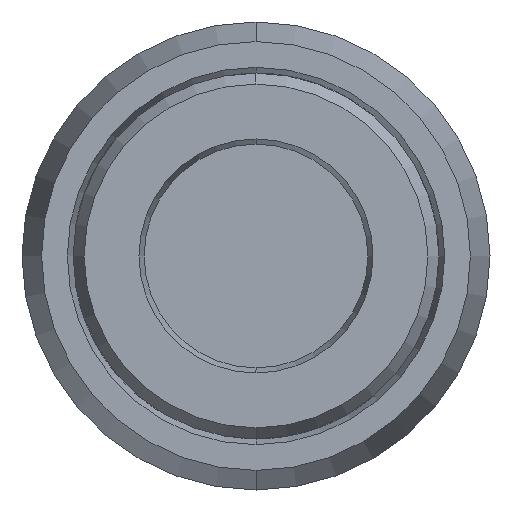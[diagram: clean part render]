
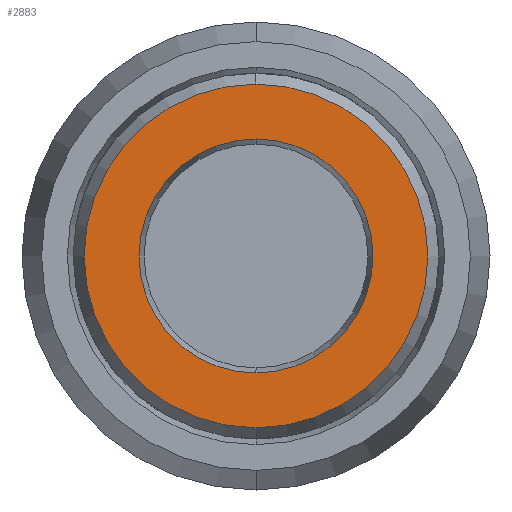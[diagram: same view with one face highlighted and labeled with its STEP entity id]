
A CAD part, front view. The second image highlights one B-rep face of the part: STEP entity #2883.
In plain terms, the highlighted planar face has unit normal (0, -1, 0).
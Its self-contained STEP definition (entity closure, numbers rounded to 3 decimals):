
#190 = AXIS2_PLACEMENT_3D ( 'NONE', #2475, #549, #2809 ) ;
#317 = DIRECTION ( 'NONE',  ( 0., 0., -1. ) ) ;
#402 = CARTESIAN_POINT ( 'NONE',  ( 0., -55.9, 8. ) ) ;
#440 = VERTEX_POINT ( 'NONE', #402 ) ;
#493 = FACE_OUTER_BOUND ( 'NONE', #1086, .T. ) ;
#549 = DIRECTION ( 'NONE',  ( 0., 1., 0. ) ) ;
#559 = CARTESIAN_POINT ( 'NONE',  ( 0., -55.9, -8. ) ) ;
#596 = VERTEX_POINT ( 'NONE', #1700 ) ;
#639 = EDGE_CURVE ( 'NONE', #945, #440, #1295, .T. ) ;
#764 = CARTESIAN_POINT ( 'NONE',  ( 0., -55.9, 0. ) ) ;
#885 = ORIENTED_EDGE ( 'NONE', *, *, #2697, .F. ) ;
#945 = VERTEX_POINT ( 'NONE', #559 ) ;
#1008 = DIRECTION ( 'NONE',  ( 0., 0., -1. ) ) ;
#1086 = EDGE_LOOP ( 'NONE', ( #885, #2344 ) ) ;
#1125 = EDGE_CURVE ( 'NONE', #440, #945, #1240, .T. ) ;
#1212 = DIRECTION ( 'NONE',  ( 0., 1., 0. ) ) ;
#1240 = CIRCLE ( 'NONE', #2851, 8. ) ;
#1290 = EDGE_LOOP ( 'NONE', ( #4136, #1294 ) ) ;
#1294 = ORIENTED_EDGE ( 'NONE', *, *, #639, .T. ) ;
#1295 = CIRCLE ( 'NONE', #3579, 8. ) ;
#1372 = DIRECTION ( 'NONE',  ( 0., 1., 0. ) ) ;
#1486 = AXIS2_PLACEMENT_3D ( 'NONE', #3157, #1212, #3490 ) ;
#1700 = CARTESIAN_POINT ( 'NONE',  ( 0., -55.9, 11.75 ) ) ;
#2213 = CIRCLE ( 'NONE', #1486, 11.75 ) ;
#2263 = DIRECTION ( 'NONE',  ( 0., 1., 0. ) ) ;
#2294 = DIRECTION ( 'NONE',  ( 0., 1., 0. ) ) ;
#2344 = ORIENTED_EDGE ( 'NONE', *, *, #2753, .F. ) ;
#2475 = CARTESIAN_POINT ( 'NONE',  ( 0., -55.9, 0. ) ) ;
#2573 = PLANE ( 'NONE',  #3833 ) ;
#2697 = EDGE_CURVE ( 'NONE', #3389, #596, #3959, .T. ) ;
#2753 = EDGE_CURVE ( 'NONE', #596, #3389, #2213, .T. ) ;
#2809 = DIRECTION ( 'NONE',  ( 0., 0., -1. ) ) ;
#2851 = AXIS2_PLACEMENT_3D ( 'NONE', #764, #1372, #3311 ) ;
#2883 = ADVANCED_FACE ( 'NONE', ( #3083, #493 ), #2573, .F. ) ;
#3083 = FACE_BOUND ( 'NONE', #1290, .T. ) ;
#3157 = CARTESIAN_POINT ( 'NONE',  ( 0., -55.9, 0. ) ) ;
#3291 = CARTESIAN_POINT ( 'NONE',  ( 0., -55.9, 0. ) ) ;
#3311 = DIRECTION ( 'NONE',  ( 0., 0., -1. ) ) ;
#3389 = VERTEX_POINT ( 'NONE', #3963 ) ;
#3490 = DIRECTION ( 'NONE',  ( 0., 0., -1. ) ) ;
#3579 = AXIS2_PLACEMENT_3D ( 'NONE', #3291, #2294, #1008 ) ;
#3833 = AXIS2_PLACEMENT_3D ( 'NONE', #4213, #2263, #317 ) ;
#3959 = CIRCLE ( 'NONE', #190, 11.75 ) ;
#3963 = CARTESIAN_POINT ( 'NONE',  ( 0., -55.9, -11.75 ) ) ;
#4136 = ORIENTED_EDGE ( 'NONE', *, *, #1125, .T. ) ;
#4213 = CARTESIAN_POINT ( 'NONE',  ( 0., -55.9, 0. ) ) ;
